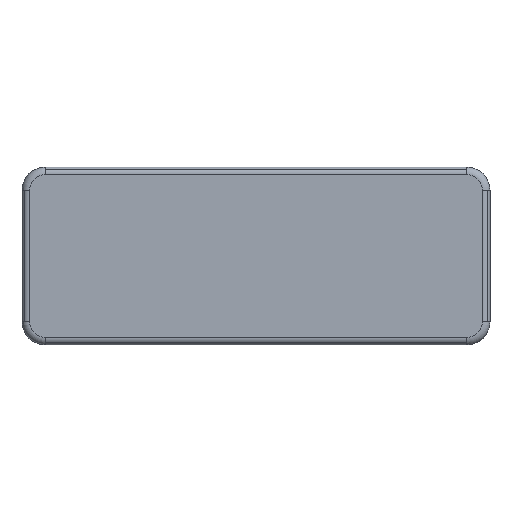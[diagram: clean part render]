
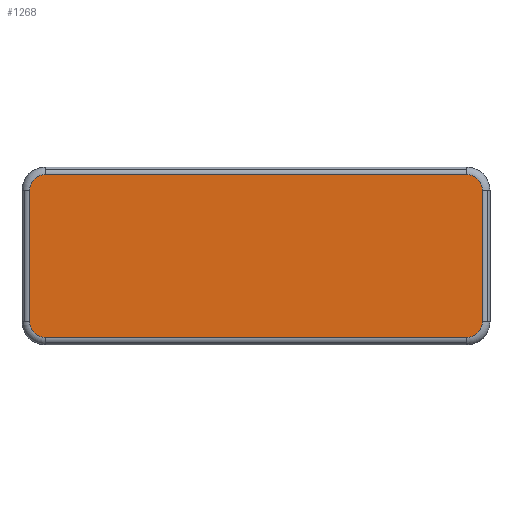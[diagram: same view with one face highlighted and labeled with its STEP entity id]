
A CAD part, front view. The second image highlights one B-rep face of the part: STEP entity #1268.
In plain terms, the highlighted planar face has unit normal (0, -1, 0).
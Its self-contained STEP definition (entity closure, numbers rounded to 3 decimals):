
#1268=ADVANCED_FACE('',(#3436),#3437,.F.);
#3436=FACE_OUTER_BOUND('',#5655,.T.);
#3437=PLANE('',#5656);
#5655=EDGE_LOOP('',(#15032,#15033,#15034,#15035,#15036,#15037,#15038,#15039));
#5656=AXIS2_PLACEMENT_3D('',#15040,#15041,#15042);
#15032=ORIENTED_EDGE('',*,*,#18509,.F.);
#15033=ORIENTED_EDGE('',*,*,#18515,.F.);
#15034=ORIENTED_EDGE('',*,*,#18505,.F.);
#15035=ORIENTED_EDGE('',*,*,#18520,.F.);
#15036=ORIENTED_EDGE('',*,*,#18497,.F.);
#15037=ORIENTED_EDGE('',*,*,#18529,.F.);
#15038=ORIENTED_EDGE('',*,*,#18501,.F.);
#15039=ORIENTED_EDGE('',*,*,#18524,.F.);
#15040=CARTESIAN_POINT('',(0.,-3.2,0.0));
#15041=DIRECTION('',(0.,1.0,0.));
#15042=DIRECTION('',(0.0,0.,1.0));
#18497=EDGE_CURVE('',#23711,#23713,#23714,.T.);
#18501=EDGE_CURVE('',#23719,#23721,#23722,.T.);
#18505=EDGE_CURVE('',#23727,#23729,#23730,.T.);
#18509=EDGE_CURVE('',#23735,#23737,#23738,.T.);
#18515=EDGE_CURVE('',#23729,#23735,#23745,.T.);
#18520=EDGE_CURVE('',#23713,#23727,#23751,.T.);
#18524=EDGE_CURVE('',#23737,#23719,#23756,.T.);
#18529=EDGE_CURVE('',#23721,#23711,#23762,.T.);
#23711=VERTEX_POINT('',#32008);
#23713=VERTEX_POINT('',#32010);
#23714=LINE('',#32011,#32012);
#23719=VERTEX_POINT('',#32018);
#23721=VERTEX_POINT('',#32020);
#23722=LINE('',#32021,#32022);
#23727=VERTEX_POINT('',#32028);
#23729=VERTEX_POINT('',#32030);
#23730=LINE('',#32031,#32032);
#23735=VERTEX_POINT('',#32038);
#23737=VERTEX_POINT('',#32040);
#23738=LINE('',#32041,#32042);
#23745=CIRCLE('',#32050,0.085);
#23751=CIRCLE('',#32057,0.085);
#23756=CIRCLE('',#32062,0.085);
#23762=CIRCLE('',#32069,0.085);
#32008=CARTESIAN_POINT('',(-1.125,-3.2,0.435));
#32010=CARTESIAN_POINT('',(1.125,-3.2,0.435));
#32011=CARTESIAN_POINT('',(-0.563,-3.2,0.435));
#32012=VECTOR('',#35396,1.0);
#32018=CARTESIAN_POINT('',(-1.21,-3.2,-0.35));
#32020=CARTESIAN_POINT('',(-1.21,-3.2,0.35));
#32021=CARTESIAN_POINT('',(-1.21,-3.2,-0.175));
#32022=VECTOR('',#35404,1.0);
#32028=CARTESIAN_POINT('',(1.21,-3.2,0.35));
#32030=CARTESIAN_POINT('',(1.21,-3.2,-0.35));
#32031=CARTESIAN_POINT('',(1.21,-3.2,0.175));
#32032=VECTOR('',#35412,1.0);
#32038=CARTESIAN_POINT('',(1.125,-3.2,-0.435));
#32040=CARTESIAN_POINT('',(-1.125,-3.2,-0.435));
#32041=CARTESIAN_POINT('',(0.563,-3.2,-0.435));
#32042=VECTOR('',#35420,1.0);
#32050=AXIS2_PLACEMENT_3D('',#35434,#35435,#35436);
#32057=AXIS2_PLACEMENT_3D('',#35447,#35448,#35449);
#32062=AXIS2_PLACEMENT_3D('',#35459,#35460,#35461);
#32069=AXIS2_PLACEMENT_3D('',#35472,#35473,#35474);
#35396=DIRECTION('',(1.0,0.,0.0));
#35404=DIRECTION('',(0.0,0.,1.0));
#35412=DIRECTION('',(0.0,0.,-1.0));
#35420=DIRECTION('',(-1.0,0.,0.0));
#35434=CARTESIAN_POINT('',(1.125,-3.2,-0.35));
#35435=DIRECTION('',(0.,1.0,0.));
#35436=DIRECTION('',(0.707,0.,-0.707));
#35447=CARTESIAN_POINT('',(1.125,-3.2,0.35));
#35448=DIRECTION('',(0.,1.0,0.));
#35449=DIRECTION('',(0.707,0.,0.707));
#35459=CARTESIAN_POINT('',(-1.125,-3.2,-0.35));
#35460=DIRECTION('',(0.,1.0,0.));
#35461=DIRECTION('',(-0.707,0.,-0.707));
#35472=CARTESIAN_POINT('',(-1.125,-3.2,0.35));
#35473=DIRECTION('',(0.,1.0,0.));
#35474=DIRECTION('',(-0.707,0.,0.707));
